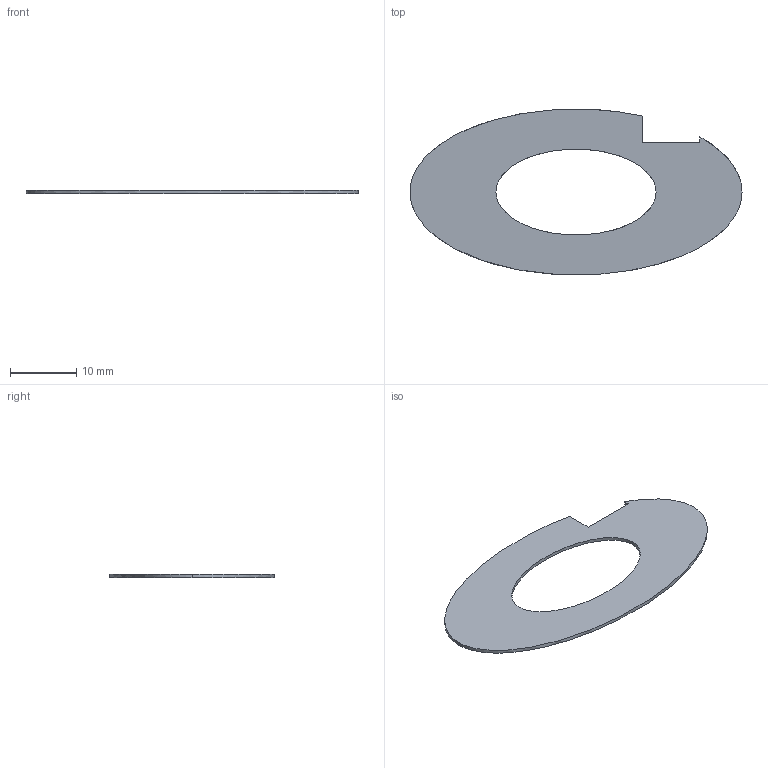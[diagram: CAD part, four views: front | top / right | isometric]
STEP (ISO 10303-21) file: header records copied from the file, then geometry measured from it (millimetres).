
FILE_DESCRIPTION(('STEP AP214'),'1');
FILE_NAME('tmp0.step','2025-05-23T12:33:17',(' '),(' '),'Spatial InterOp 3D',' ',' ');
FILE_SCHEMA(('AUTOMOTIVE_DESIGN { 1 0 10303 214 1 1 1 1 }'));
Length unit declared in the file: millimetre
Products named in the file (1): 1
Bounding box: 50.2 x 24.95 x 0.5 mm (x, y, z)
Volume: 359.8 mm3; surface area: 1532 mm2
Topology: 1 solids, 1 shells, 10 faces, 24 edges, 16 vertices
Faces by surface type: bspline 5, plane 5
Entity records: 392 total; most frequent: CARTESIAN_POINT 136, ORIENTED_EDGE 48, DIRECTION 46, EDGE_CURVE 24, AXIS2_PLACEMENT_3D 16, VERTEX_POINT 16, LINE 14, VECTOR 14
